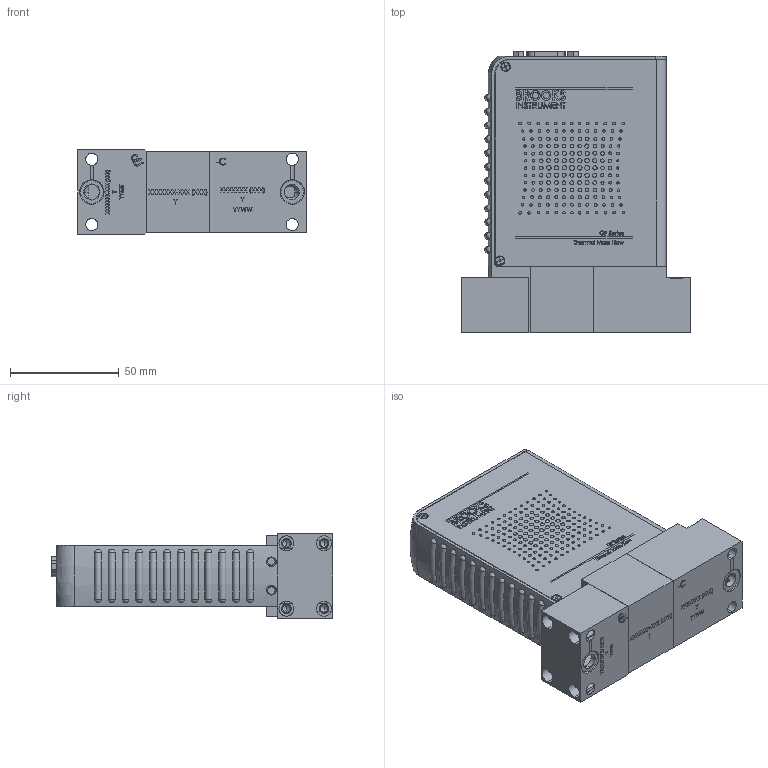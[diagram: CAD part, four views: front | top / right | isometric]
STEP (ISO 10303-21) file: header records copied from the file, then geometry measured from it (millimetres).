
FILE_DESCRIPTION (( 'STEP AP203' ), '1' );
FILE_NAME ('GF100-GF120-GF125-AS-G1.STEP', '2022-12-09T14:24:33', ( '' ), ( '' ), 'SwSTEP 2.0', 'SolidWorks 2020', '' );
FILE_SCHEMA (( 'CONFIG_CONTROL_DESIGN' ));
Length unit declared in the file: inch
Products named in the file (1): GF100-GF120-GF125-AS-G1
Bounding box: 104.95 x 129.41 x 38.73 mm (x, y, z)
Volume: 83242.1 mm3; surface area: 88027.3 mm2
Topology: 62 solids, 62 shells, 2992 faces, 7594 edges, 4983 vertices
Faces by surface type: plane 1763, cylinder 648, bspline 373, cone 166, torus 36, sphere 6
Entity records: 109455 total; most frequent: CARTESIAN_POINT 38526, ORIENTED_EDGE 15140, DIRECTION 13420, EDGE_CURVE 7570, VECTOR 5090, LINE 5090, VERTEX_POINT 4981, AXIS2_PLACEMENT_3D 4165
